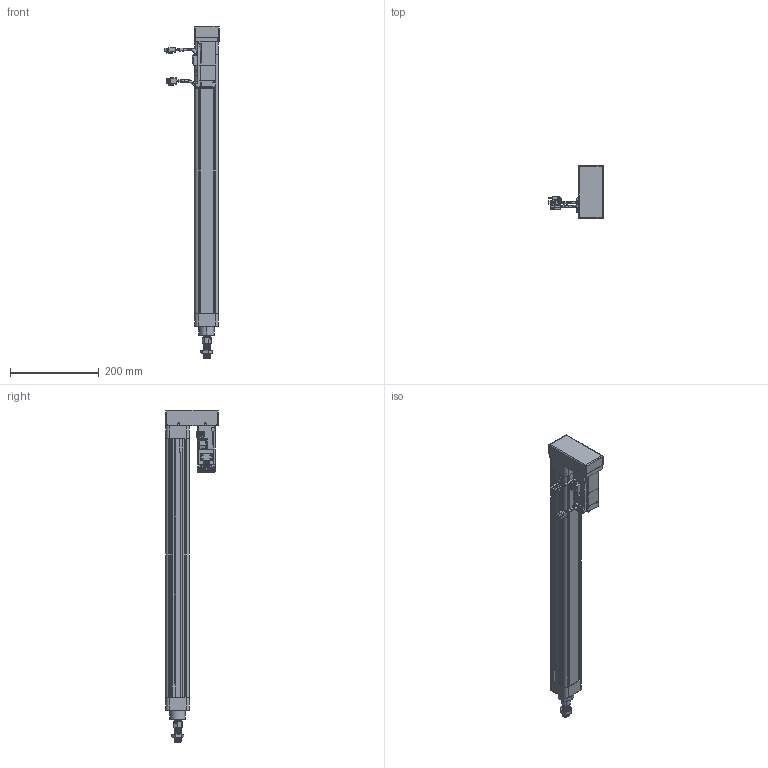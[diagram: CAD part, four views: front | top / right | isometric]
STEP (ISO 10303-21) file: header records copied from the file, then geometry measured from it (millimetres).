
FILE_DESCRIPTION (( 'STEP AP203' ), '1' );
FILE_NAME ('VEC50-10-C-500-MF-ZP10B-MS2.STEP', '2019-01-26T02:52:45', ( 'vobosh 6' ), ( 'Microsoft' ), 'SwSTEP 2.0', 'SolidWorks 2016', '' );
FILE_SCHEMA (( 'CONFIG_CONTROL_DESIGN' ));
Length unit declared in the file: millimetre
Products named in the file (12): CS1-M; 鞠褒蹟譫M16x1.5; VEC50-MF-200-004-X1; VEC50-MF-200-001-X1; MHMF012L1V2; VEC50-MF-200-002-X1; VEC50-MF-200-005-X1; VEC50-MF-200-003-X1; VEC50-10-C-500-MF-ZP10B-MS2; 带尾螺母M6x9x45（镀镍）; 柈ч肣薦え耳9x耳8.5x4.4; VEC50-MF-200-011-X1
Assembly tree (20 placements, depth 2):
  VEC50-10-C-500-MF-ZP10B-MS2
    VEC50-MF-200-001-X1
    VEC50-MF-200-002-X1
    VEC50-MF-200-003-X1
    带尾螺母M6x9x45（镀镍）  x8
    柈ч肣薦え耳9x耳8.5x4.4  x2
    VEC50-MF-200-011-X1
    CS1-M  x2
    鞠褒蹟譫M16x1.5
    VEC50-MF-200-004-X1
    MHMF012L1V2
    VEC50-MF-200-005-X1
Bounding box: 122.5 x 118 x 749 mm (x, y, z)
Volume: 1139480.5 mm3; surface area: 411439.2 mm2
Topology: 27 solids, 27 shells, 1970 faces, 4861 edges, 3048 vertices
Faces by surface type: plane 902, cylinder 703, cone 239, bspline 117, torus 9
Entity records: 59744 total; most frequent: CARTESIAN_POINT 16772, DIRECTION 8631, ORIENTED_EDGE 8630, EDGE_CURVE 4315, AXIS2_PLACEMENT_3D 2988, VERTEX_POINT 2755, LINE 2655, VECTOR 2655
